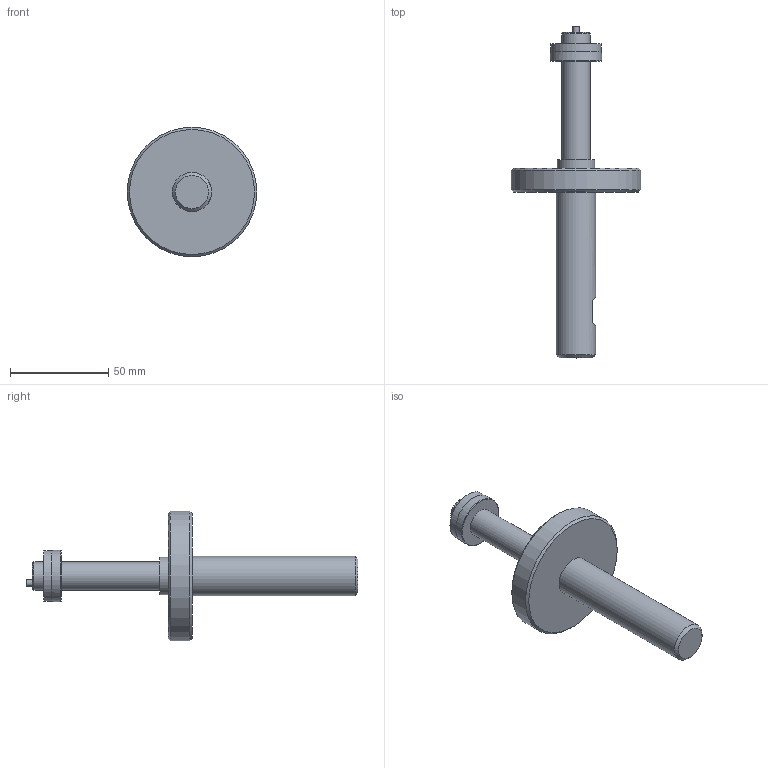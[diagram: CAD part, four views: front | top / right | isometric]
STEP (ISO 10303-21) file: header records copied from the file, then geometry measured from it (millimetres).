
FILE_DESCRIPTION (( 'STEP AP203' ), '1' );
FILE_NAME ('AF56-SIMPLE - AF56-14.50M-26.50M.step', '2025-01-22T13:32:16', ( '' ), ( '' ), 'SwSTEP 2.0', 'SolidWorks 2024', '' );
FILE_SCHEMA (( 'CONFIG_CONTROL_DESIGN' ));
Length unit declared in the file: inch
Products named in the file (1): AF56-SIMPLE - AF56-14.50M-26.50M
Bounding box: 66.04 x 169.29 x 66.04 mm (x, y, z)
Volume: 82951.4 mm3; surface area: 18642 mm2
Topology: 1 solids, 1 shells, 24 faces, 40 edges, 25 vertices
Faces by surface type: plane 11, cylinder 7, cone 5, torus 1
Full cylindrical faces by diameter (mm): 3.175 x1, 14.376 x2, 19.05 x1, 20 x1, 25.994 x1, 66.04 x1
Entity records: 569 total; most frequent: DIRECTION 94, CARTESIAN_POINT 81, ORIENTED_EDGE 52, AXIS2_PLACEMENT_3D 45, EDGE_LOOP 44, FACE_OUTER_BOUND 32, EDGE_CURVE 26, ADVANCED_FACE 24
